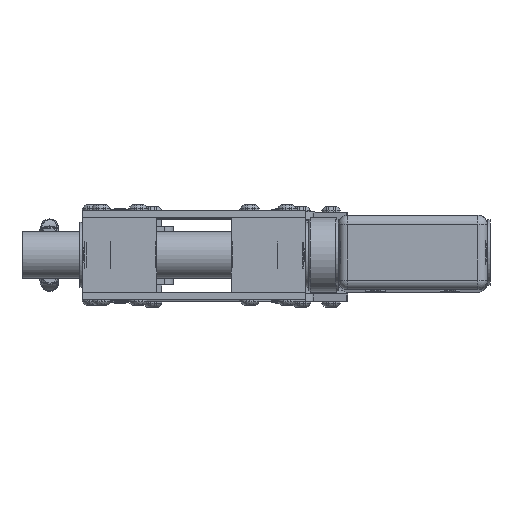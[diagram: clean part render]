
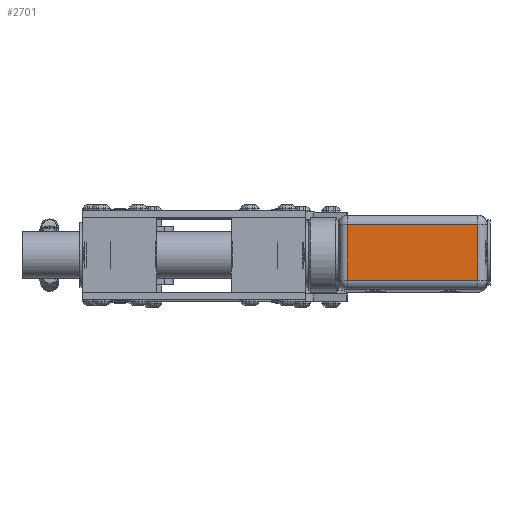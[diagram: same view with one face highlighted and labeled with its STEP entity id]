
A CAD part, top view. The second image highlights one B-rep face of the part: STEP entity #2701.
In plain terms, the highlighted planar face has unit normal (0, 0, 1).
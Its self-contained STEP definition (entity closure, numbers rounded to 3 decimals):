
#2701=ADVANCED_FACE('',(#6426),#6427,.T.);
#6426=FACE_OUTER_BOUND('',#11439,.T.);
#6427=PLANE('',#11440);
#11439=EDGE_LOOP('',(#23146,#23147,#23148,#23149));
#11440=AXIS2_PLACEMENT_3D('',#23150,#23151,#23152);
#23146=ORIENTED_EDGE('',*,*,#28090,.F.);
#23147=ORIENTED_EDGE('',*,*,#28063,.F.);
#23148=ORIENTED_EDGE('',*,*,#27814,.F.);
#23149=ORIENTED_EDGE('',*,*,#27895,.F.);
#23150=CARTESIAN_POINT('',(0.0,0.0,40.0));
#23151=DIRECTION('',(0.0,0.0,1.0));
#23152=DIRECTION('',(1.0,0.0,0.0));
#27814=EDGE_CURVE('',#32953,#31936,#32955,.T.);
#27895=EDGE_CURVE('',#32721,#32953,#33063,.T.);
#28063=EDGE_CURVE('',#31936,#32465,#33265,.T.);
#28090=EDGE_CURVE('',#32465,#32721,#33301,.T.);
#31936=VERTEX_POINT('',#39295);
#32465=VERTEX_POINT('',#40391);
#32721=VERTEX_POINT('',#40914);
#32953=VERTEX_POINT('',#41392);
#32955=LINE('',#41394,#41395);
#33063=LINE('',#41584,#41585);
#33265=LINE('',#42032,#42033);
#33301=LINE('',#42090,#42091);
#39295=CARTESIAN_POINT('',(-35.0,-15.0,40.0));
#40391=CARTESIAN_POINT('',(-35.0,15.0,40.0));
#40914=CARTESIAN_POINT('',(35.0,15.0,40.0));
#41392=CARTESIAN_POINT('',(35.0,-15.0,40.0));
#41394=CARTESIAN_POINT('',(20.0,-15.0,40.0));
#41395=VECTOR('',#48010,1.0);
#41584=CARTESIAN_POINT('',(35.0,10.0,40.0));
#41585=VECTOR('',#48119,1.0);
#42032=CARTESIAN_POINT('',(-35.0,-10.0,40.0));
#42033=VECTOR('',#48320,1.0);
#42090=CARTESIAN_POINT('',(-20.0,15.0,40.0));
#42091=VECTOR('',#48357,1.0);
#48010=DIRECTION('',(-1.0,0.0,0.0));
#48119=DIRECTION('',(0.,-1.0,0.0));
#48320=DIRECTION('',(0.,1.0,0.0));
#48357=DIRECTION('',(1.0,0.0,0.0));
